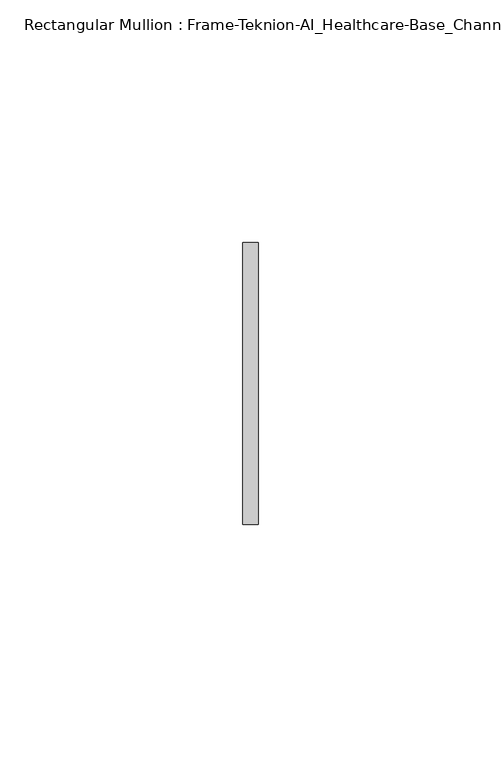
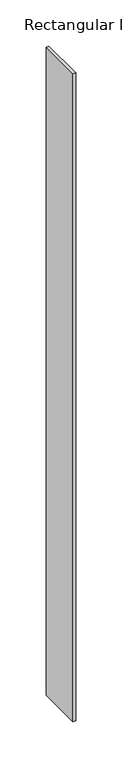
"""IFC4 building model written with IfcOpenShell, lengths in millimetres: member geometry, Rectangular Mullion : Frame-Teknion-AI_Healthcare-Base_Channel."""

from ifc_helpers import new_model, si_unit, frame, origin, place, context, project, spatial, polyline, outline, extrude, source, transform, mapped, element, save


def rectangular_mullion_frame_teknion_ai_healthcare_base_channel_96122873(model_context):
    return source(origin(), model_context, "Body", "SweptSolid", [
        extrude(outline(polyline([(0.0, 29.0214844), (0.0, -29.0214844), (-3.175, -29.0214844), (-3.175, 29.0214844), (0.0, 29.0214844)])), frame((0.0, 0.0, -856.6071795), z_axis=(0.0, 0.0, 1.0), x_axis=(1.0, 0.0, 0.0)), (0.0, 0.0, 1.0), 856.6071795),
    ])


if __name__ == "__main__":
    model = new_model("IFC4")
    model_context = context("Model", 3, world=origin())
    ifc_project = project(units=[si_unit("LENGTHUNIT", "METRE", prefix="MILLI")], contexts=[model_context])
    site = spatial("IfcSite", under=ifc_project)
    building = spatial("IfcBuilding", under=site)
    placement = place(None, origin())
    rectangular_mullion_frame_teknion_ai_healthcare_base_channel_shape = rectangular_mullion_frame_teknion_ai_healthcare_base_channel_96122873(model_context)
    element("IfcMember", 1, ObjectType="Rectangular Mullion : Frame-Teknion-AI_Healthcare-Base_Channel", at=placement, inside=building, context=model_context, shape_type="MappedRepresentation", body=[
        mapped(rectangular_mullion_frame_teknion_ai_healthcare_base_channel_shape, transform((0.0, 0.0, 0.0), x_axis=(1.0, 0.0, 0.0), y_axis=(0.0, 1.0, 0.0), z_axis=(0.0, 0.0, 1.0))),
    ])
    save(model, "model.ifc")
